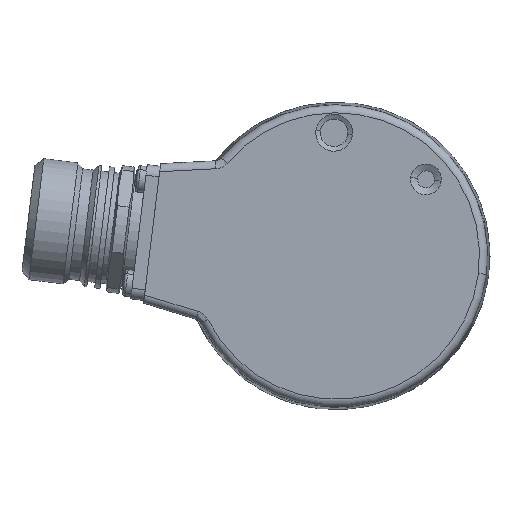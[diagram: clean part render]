
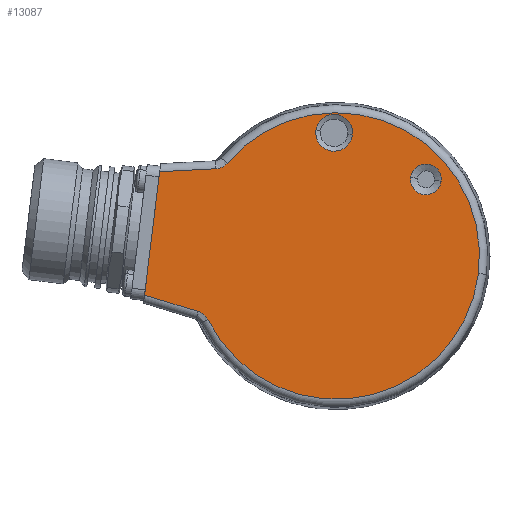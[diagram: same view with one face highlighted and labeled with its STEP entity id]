
A CAD part, left-side view. The second image highlights one B-rep face of the part: STEP entity #13087.
In plain terms, the highlighted planar face has unit normal (-1, 0, 0).
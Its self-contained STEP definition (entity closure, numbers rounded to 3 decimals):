
#1314 = DIRECTION ( 'NONE',  ( 0., -0.993, -0.122 ) ) ;
#1315 = DIRECTION ( 'NONE',  ( 1., 0., 0. ) ) ;
#1316 = CARTESIAN_POINT ( 'NONE',  ( -30.5, 0., 0. ) ) ;
#1317 = AXIS2_PLACEMENT_3D ( 'NONE', #1316, #1315, #1314 ) ;
#1318 = PLANE ( 'NONE',  #1317 ) ;
#1319 = CARTESIAN_POINT ( 'NONE',  ( -30.5, 22.503, 16.471 ) ) ;
#1320 = CARTESIAN_POINT ( 'NONE',  ( -30.5, 22.708, 16.461 ) ) ;
#1329 = B_SPLINE_CURVE_WITH_KNOTS ( 'NONE', 3,
 ( #1320, #1319, #1415, #1414, #1413, #1412, #1411, #1410, #1409, #1408 ),
 .UNSPECIFIED., .F., .F.,
 ( 4, 2, 2, 2, 4 ),
 ( 0., 0.001, 0.001, 0.002, 0.002 ),
 .UNSPECIFIED. ) ;
#1339 = CARTESIAN_POINT ( 'NONE',  ( -30.5, 26.015, -10.478 ) ) ;
#1340 = CARTESIAN_POINT ( 'NONE',  ( -30.5, 25.819, -10.538 ) ) ;
#1341 = CARTESIAN_POINT ( 'NONE',  ( -30.5, 25.632, -10.617 ) ) ;
#1342 = CARTESIAN_POINT ( 'NONE',  ( -30.5, 25.277, -10.811 ) ) ;
#1343 = CARTESIAN_POINT ( 'NONE',  ( -30.5, 25.107, -10.927 ) ) ;
#1344 = CARTESIAN_POINT ( 'NONE',  ( -30.5, 24.797, -11.19 ) ) ;
#1345 = CARTESIAN_POINT ( 'NONE',  ( -30.5, 24.657, -11.336 ) ) ;
#1346 = CARTESIAN_POINT ( 'NONE',  ( -30.5, 24.406, -11.656 ) ) ;
#1347 = CARTESIAN_POINT ( 'NONE',  ( -30.5, 24.296, -11.83 ) ) ;
#1348 = CARTESIAN_POINT ( 'NONE',  ( -30.5, 24.205, -12.014 ) ) ;
#1356 = FACE_BOUND ( 'NONE', #13088, .T. ) ;
#1357 = B_SPLINE_CURVE_WITH_KNOTS ( 'NONE', 3,
 ( #1348, #1347, #1346, #1345, #1344, #1343, #1342, #1341, #1340, #1339 ),
 .UNSPECIFIED., .F., .F.,
 ( 4, 2, 2, 2, 4 ),
 ( 0., 0.001, 0.001, 0.002, 0.002 ),
 .UNSPECIFIED. ) ;
#1358 = FACE_OUTER_BOUND ( 'NONE', #13103, .T. ) ;
#1359 = FACE_BOUND ( 'NONE', #13105, .T. ) ;
#1378 = DIRECTION ( 'NONE',  ( 0., -0.122, 0.993 ) ) ;
#1379 = VECTOR ( 'NONE', #1378, 1000. ) ;
#1380 = CARTESIAN_POINT ( 'NONE',  ( -30.5, 36.354, -8.886 ) ) ;
#1381 = LINE ( 'NONE', #1380, #1379 ) ;
#1382 = DIRECTION ( 'NONE',  ( 0., -0.993, -0.122 ) ) ;
#1383 = DIRECTION ( 'NONE',  ( 1., 0., 0. ) ) ;
#1384 = AXIS2_PLACEMENT_3D ( 'NONE', #1389, #1383, #1382 ) ;
#1385 = CIRCLE ( 'NONE', #1384, 3.466 ) ;
#1389 = CARTESIAN_POINT ( 'NONE',  ( -30.5, 0.406, 23.246 ) ) ;
#1390 = CARTESIAN_POINT ( 'NONE',  ( -30.5, 26.015, -10.478 ) ) ;
#1391 = DIRECTION ( 'NONE',  ( 0., -0.956, -0.292 ) ) ;
#1392 = VECTOR ( 'NONE', #1391, 1000. ) ;
#1393 = CARTESIAN_POINT ( 'NONE',  ( -30.5, 25.362, -10.678 ) ) ;
#1394 = LINE ( 'NONE', #1393, #1392 ) ;
#1395 = CARTESIAN_POINT ( 'NONE',  ( -30.5, 36.168, -7.374 ) ) ;
#1408 = CARTESIAN_POINT ( 'NONE',  ( -30.5, 20.579, 17.512 ) ) ;
#1409 = CARTESIAN_POINT ( 'NONE',  ( -30.5, 20.712, 17.356 ) ) ;
#1410 = CARTESIAN_POINT ( 'NONE',  ( -30.5, 20.859, 17.216 ) ) ;
#1411 = CARTESIAN_POINT ( 'NONE',  ( -30.5, 21.178, 16.967 ) ) ;
#1412 = CARTESIAN_POINT ( 'NONE',  ( -30.5, 21.352, 16.857 ) ) ;
#1413 = CARTESIAN_POINT ( 'NONE',  ( -30.5, 21.716, 16.677 ) ) ;
#1414 = CARTESIAN_POINT ( 'NONE',  ( -30.5, 21.906, 16.606 ) ) ;
#1415 = CARTESIAN_POINT ( 'NONE',  ( -30.5, 22.299, 16.503 ) ) ;
#5013 = EDGE_CURVE ( 'NONE', #5014, #5015, #13675, .T. ) ;
#5014 = VERTEX_POINT ( 'NONE', #13685 ) ;
#5015 = VERTEX_POINT ( 'NONE', #13672 ) ;
#5024 = VERTEX_POINT ( 'NONE', #13711 ) ;
#5026 = EDGE_CURVE ( 'NONE', #5027, #5024, #13710, .T. ) ;
#5027 = VERTEX_POINT ( 'NONE', #13705 ) ;
#5038 = VERTEX_POINT ( 'NONE', #13730 ) ;
#5045 = VERTEX_POINT ( 'NONE', #13724 ) ;
#5093 = EDGE_CURVE ( 'NONE', #5094, #5014, #14007, .T. ) ;
#5094 = VERTEX_POINT ( 'NONE', #14078 ) ;
#5101 = EDGE_CURVE ( 'NONE', #5201, #5205, #14071, .T. ) ;
#5201 = VERTEX_POINT ( 'NONE', #14186 ) ;
#5204 = EDGE_CURVE ( 'NONE', #5205, #5201, #14207, .T. ) ;
#5205 = VERTEX_POINT ( 'NONE', #14184 ) ;
#5240 = EDGE_CURVE ( 'NONE', #5038, #5045, #14831, .T. ) ;
#5315 = ORIENTED_EDGE ( 'NONE', *, *, #5093, .T. ) ;
#5317 = ORIENTED_EDGE ( 'NONE', *, *, #5013, .T. ) ;
#13071 = EDGE_CURVE ( 'NONE', #5038, #5015, #1329, .T. ) ;
#13078 = VERTEX_POINT ( 'NONE', #1395 ) ;
#13079 = ORIENTED_EDGE ( 'NONE', *, *, #13080, .T. ) ;
#13080 = EDGE_CURVE ( 'NONE', #13078, #13081, #1394, .T. ) ;
#13081 = VERTEX_POINT ( 'NONE', #1390 ) ;
#13082 = EDGE_CURVE ( 'NONE', #5094, #13081, #1357, .T. ) ;
#13083 = ORIENTED_EDGE ( 'NONE', *, *, #13082, .F. ) ;
#13087 = ADVANCED_FACE ( 'NONE', ( #1356, #1359, #1358 ), #1318, .F. ) ;
#13088 = EDGE_LOOP ( 'NONE', ( #13089, #13110 ) ) ;
#13089 = ORIENTED_EDGE ( 'NONE', *, *, #5026, .T. ) ;
#13094 = EDGE_CURVE ( 'NONE', #5024, #5027, #1385, .T. ) ;
#13095 = ORIENTED_EDGE ( 'NONE', *, *, #5240, .T. ) ;
#13096 = ORIENTED_EDGE ( 'NONE', *, *, #13097, .F. ) ;
#13097 = EDGE_CURVE ( 'NONE', #13078, #5045, #1381, .T. ) ;
#13103 = EDGE_LOOP ( 'NONE', ( #13104, #13095, #13096, #13079, #13083, #5315, #5317 ) ) ;
#13104 = ORIENTED_EDGE ( 'NONE', *, *, #13071, .F. ) ;
#13105 = EDGE_LOOP ( 'NONE', ( #13106, #13107 ) ) ;
#13106 = ORIENTED_EDGE ( 'NONE', *, *, #5204, .T. ) ;
#13107 = ORIENTED_EDGE ( 'NONE', *, *, #5101, .T. ) ;
#13110 = ORIENTED_EDGE ( 'NONE', *, *, #13094, .T. ) ;
#13672 = CARTESIAN_POINT ( 'NONE',  ( -30.5, 20.579, 17.512 ) ) ;
#13673 = CARTESIAN_POINT ( 'NONE',  ( -30.5, 0., 0. ) ) ;
#13674 = AXIS2_PLACEMENT_3D ( 'NONE', #13673, #13687, #13686 ) ;
#13675 = CIRCLE ( 'NONE', #13674, 27.022 ) ;
#13685 = CARTESIAN_POINT ( 'NONE',  ( -30.5, -26.821, -3.293 ) ) ;
#13686 = DIRECTION ( 'NONE',  ( 0., -0.993, -0.122 ) ) ;
#13687 = DIRECTION ( 'NONE',  ( -1., 0., 0. ) ) ;
#13705 = CARTESIAN_POINT ( 'NONE',  ( -30.5, 3.846, 23.669 ) ) ;
#13706 = DIRECTION ( 'NONE',  ( 0., -0.993, -0.122 ) ) ;
#13707 = DIRECTION ( 'NONE',  ( 1., 0., 0. ) ) ;
#13708 = CARTESIAN_POINT ( 'NONE',  ( -30.5, 0.406, 23.246 ) ) ;
#13709 = AXIS2_PLACEMENT_3D ( 'NONE', #13708, #13707, #13706 ) ;
#13710 = CIRCLE ( 'NONE', #13709, 3.466 ) ;
#13711 = CARTESIAN_POINT ( 'NONE',  ( -30.5, -3.034, 22.824 ) ) ;
#13724 = CARTESIAN_POINT ( 'NONE',  ( -30.5, 33.31, 15.905 ) ) ;
#13730 = CARTESIAN_POINT ( 'NONE',  ( -30.5, 22.708, 16.461 ) ) ;
#14006 = AXIS2_PLACEMENT_3D ( 'NONE', #14081, #14080, #14079 ) ;
#14007 = CIRCLE ( 'NONE', #14006, 27.022 ) ;
#14067 = DIRECTION ( 'NONE',  ( 0., -0.993, -0.122 ) ) ;
#14068 = DIRECTION ( 'NONE',  ( 1., 0., 0. ) ) ;
#14069 = CARTESIAN_POINT ( 'NONE',  ( -30.5, -16.919, 14.45 ) ) ;
#14070 = AXIS2_PLACEMENT_3D ( 'NONE', #14069, #14068, #14067 ) ;
#14071 = CIRCLE ( 'NONE', #14070, 2.899 ) ;
#14078 = CARTESIAN_POINT ( 'NONE',  ( -30.5, 24.205, -12.014 ) ) ;
#14079 = DIRECTION ( 'NONE',  ( 0., -0.993, -0.122 ) ) ;
#14080 = DIRECTION ( 'NONE',  ( -1., 0., 0. ) ) ;
#14081 = CARTESIAN_POINT ( 'NONE',  ( -30.5, 0., 0. ) ) ;
#14179 = DIRECTION ( 'NONE',  ( 1., 0., 0. ) ) ;
#14180 = CARTESIAN_POINT ( 'NONE',  ( -30.5, -16.919, 14.45 ) ) ;
#14181 = AXIS2_PLACEMENT_3D ( 'NONE', #14180, #14179, #14185 ) ;
#14184 = CARTESIAN_POINT ( 'NONE',  ( -30.5, -14.042, 14.804 ) ) ;
#14185 = DIRECTION ( 'NONE',  ( 0., -0.993, -0.122 ) ) ;
#14186 = CARTESIAN_POINT ( 'NONE',  ( -30.5, -19.796, 14.097 ) ) ;
#14207 = CIRCLE ( 'NONE', #14181, 2.899 ) ;
#14701 = DIRECTION ( 'NONE',  ( 0., 0.999, -0.052 ) ) ;
#14702 = VECTOR ( 'NONE', #14701, 1000. ) ;
#14703 = CARTESIAN_POINT ( 'NONE',  ( -30.5, 33.046, 15.919 ) ) ;
#14831 = LINE ( 'NONE', #14703, #14702 ) ;
